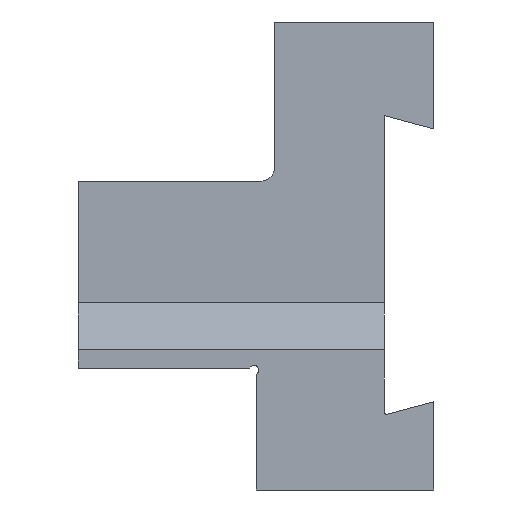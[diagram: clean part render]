
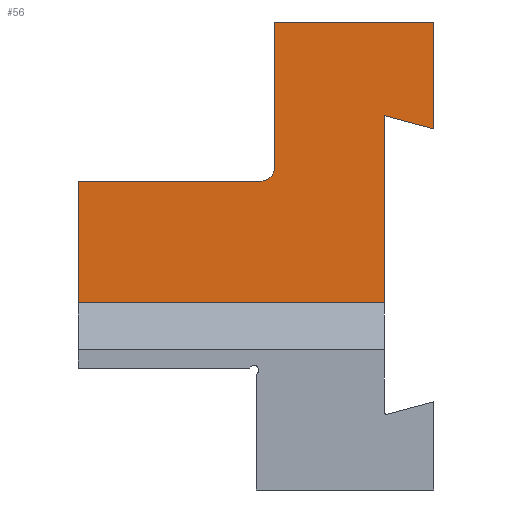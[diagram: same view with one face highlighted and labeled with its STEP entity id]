
A CAD part, front view. The second image highlights one B-rep face of the part: STEP entity #56.
In plain terms, the highlighted planar face has unit normal (0, -1, 0).
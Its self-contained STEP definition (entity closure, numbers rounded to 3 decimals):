
#46=CIRCLE('',#492,1.5);
#56=ADVANCED_FACE('',(#99),#79,.F.);
#79=PLANE('',#493);
#99=FACE_OUTER_BOUND('',#122,.T.);
#122=EDGE_LOOP('',(#165,#166,#167,#168,#169,#170,#171,#172,#173));
#165=ORIENTED_EDGE('',*,*,#326,.F.);
#166=ORIENTED_EDGE('',*,*,#318,.T.);
#167=ORIENTED_EDGE('',*,*,#319,.T.);
#168=ORIENTED_EDGE('',*,*,#308,.T.);
#169=ORIENTED_EDGE('',*,*,#312,.T.);
#170=ORIENTED_EDGE('',*,*,#327,.T.);
#171=ORIENTED_EDGE('',*,*,#328,.F.);
#172=ORIENTED_EDGE('',*,*,#329,.F.);
#173=ORIENTED_EDGE('',*,*,#330,.T.);
#266=VERTEX_POINT('',#634);
#267=VERTEX_POINT('',#635);
#270=VERTEX_POINT('',#643);
#273=VERTEX_POINT('',#650);
#275=VERTEX_POINT('',#654);
#280=VERTEX_POINT('',#671);
#281=VERTEX_POINT('',#673);
#282=VERTEX_POINT('',#675);
#283=VERTEX_POINT('',#677);
#308=EDGE_CURVE('',#266,#267,#371,.T.);
#312=EDGE_CURVE('',#267,#270,#375,.T.);
#318=EDGE_CURVE('',#273,#275,#381,.T.);
#319=EDGE_CURVE('',#275,#266,#382,.T.);
#326=EDGE_CURVE('',#273,#280,#388,.T.);
#327=EDGE_CURVE('',#270,#281,#46,.T.);
#328=EDGE_CURVE('',#282,#281,#389,.T.);
#329=EDGE_CURVE('',#283,#282,#390,.T.);
#330=EDGE_CURVE('',#283,#280,#391,.T.);
#371=LINE('',#633,#428);
#375=LINE('',#642,#432);
#381=LINE('',#655,#438);
#382=LINE('',#657,#439);
#388=LINE('',#670,#445);
#389=LINE('',#674,#446);
#390=LINE('',#676,#447);
#391=LINE('',#678,#448);
#428=VECTOR('',#517,1.);
#432=VECTOR('',#523,1.);
#438=VECTOR('',#531,1.);
#439=VECTOR('',#534,1.);
#445=VECTOR('',#546,1.);
#446=VECTOR('',#549,1.);
#447=VECTOR('',#550,1.);
#448=VECTOR('',#551,1.);
#492=AXIS2_PLACEMENT_3D('',#672,#547,#548);
#493=AXIS2_PLACEMENT_3D('',#679,#552,#553);
#517=DIRECTION('',(-1.,0.,0.));
#523=DIRECTION('',(0.,0.,-1.));
#531=DIRECTION('',(0.966,0.,-0.259));
#534=DIRECTION('',(0.,0.,1.));
#546=DIRECTION('',(0.,0.,-1.));
#547=DIRECTION('',(0.,1.,0.));
#548=DIRECTION('',(0.,0.,-1.));
#549=DIRECTION('',(1.,0.,0.));
#550=DIRECTION('',(0.,0.,1.));
#551=DIRECTION('',(1.,0.,0.));
#552=DIRECTION('',(0.,1.,0.));
#553=DIRECTION('',(0.,0.,1.));
#633=CARTESIAN_POINT('',(5.3,0.,9.625));
#634=CARTESIAN_POINT('',(5.3,0.,9.625));
#635=CARTESIAN_POINT('',(-11.7,0.,9.625));
#642=CARTESIAN_POINT('',(-11.7,0.,9.625));
#643=CARTESIAN_POINT('',(-11.7,0.,-5.875));
#650=CARTESIAN_POINT('',(0.,0.,-0.375));
#654=CARTESIAN_POINT('',(5.3,0.,-1.795));
#655=CARTESIAN_POINT('',(-0.7,0.,-0.188));
#657=CARTESIAN_POINT('',(5.3,0.,-1.795));
#670=CARTESIAN_POINT('',(0.,0.,-6.875));
#671=CARTESIAN_POINT('',(0.,0.,-20.375));
#672=CARTESIAN_POINT('',(-13.2,0.,-5.875));
#673=CARTESIAN_POINT('',(-13.2,0.,-7.375));
#674=CARTESIAN_POINT('',(-11.7,0.,-7.375));
#675=CARTESIAN_POINT('',(-32.7,0.,-7.375));
#676=CARTESIAN_POINT('',(-32.7,0.,-7.375));
#677=CARTESIAN_POINT('',(-32.7,0.,-20.375));
#678=CARTESIAN_POINT('',(95.,0.,-20.375));
#679=CARTESIAN_POINT('',(-11.7,0.,-3.135));
